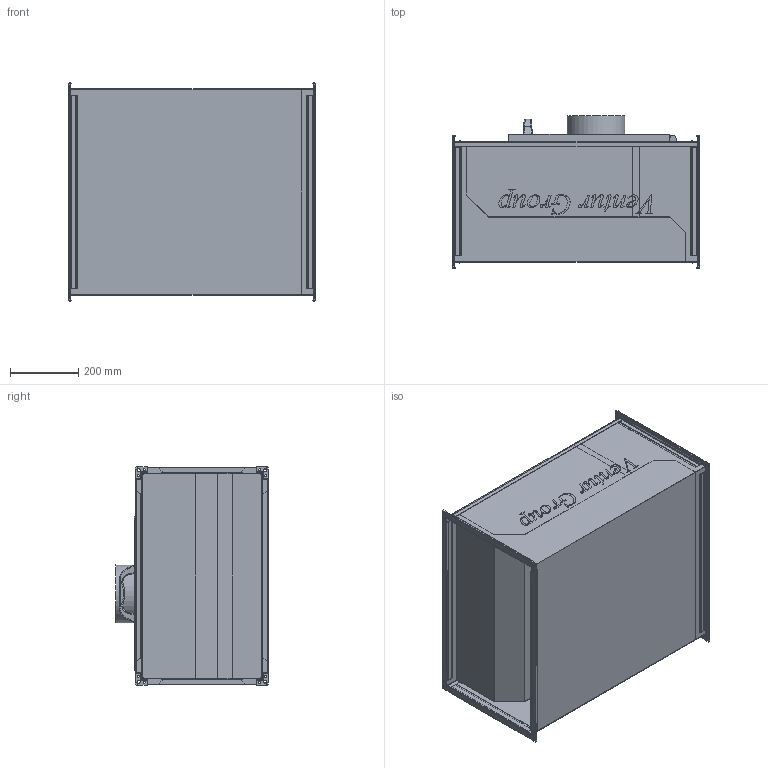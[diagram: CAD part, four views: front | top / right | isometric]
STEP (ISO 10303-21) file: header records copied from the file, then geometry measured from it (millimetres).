
FILE_DESCRIPTION(/* description */ (''),/* implementation_level */ '2;1');
FILE_NAME(/* name */ 'C:\Users\M.Janczarek\Documents\Modele uproszczone\IBF EC\IBF_EC_355T 41010105\IBF_EC_355T 41010105\IBF_EC_355T 41010105.stp',/* time_stamp */ '2018-03-30T12:37:44+02:00',/* author */ ('M.Janczarek'),/* organization */ (''),/* preprocessor_version */ 'ST-DEVELOPER v16.5',/* originating_system */ 'Autodesk Inventor 2017',/* authorisation */ '');
FILE_SCHEMA (('AUTOMOTIVE_DESIGN { 1 0 10303 214 3 1 1 }'));
Products named in the file (1): IBF_EC_355T 41010105
Bounding box: 723.6 x 447.99 x 639.97 mm (x, y, z)
Volume: 27883744.6 mm3; surface area: 5270233.2 mm2
Topology: 1 solids, 2 shells, 1721 faces, 4949 edges, 3180 vertices
Faces by surface type: plane 792, cylinder 475, bspline 346, torus 64, cone 28, sphere 16
Full cylindrical faces by diameter (mm): 6 x16, 9 x8, 170 x2, 240 x1, 373 x1
Entity records: 63661 total; most frequent: CARTESIAN_POINT 18719, ORIENTED_EDGE 9810, DIRECTION 8116, EDGE_CURVE 4905, VERTEX_POINT 3180, LINE 3046, VECTOR 3046, AXIS2_PLACEMENT_3D 2535
